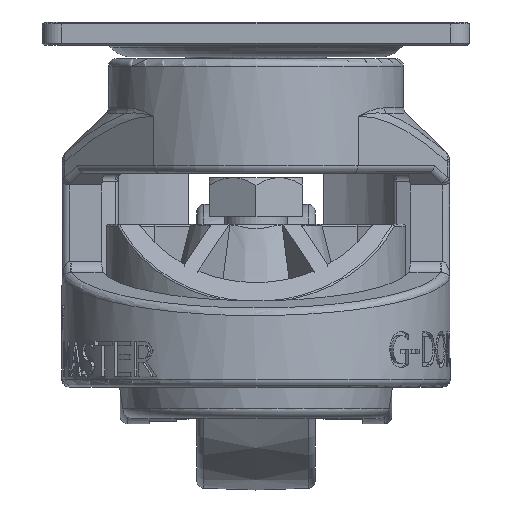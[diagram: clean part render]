
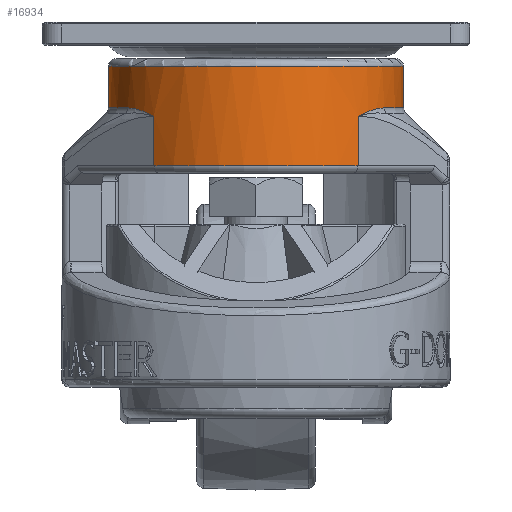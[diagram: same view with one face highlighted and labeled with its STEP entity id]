
A CAD part, left-side view. The second image highlights one B-rep face of the part: STEP entity #16934.
In plain terms, the highlighted cylindrical face has radius 38 mm (diameter 76 mm), a full revolution.
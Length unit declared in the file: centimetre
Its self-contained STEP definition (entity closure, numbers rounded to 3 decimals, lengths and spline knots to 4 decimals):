
#663=B_SPLINE_CURVE_WITH_KNOTS('',3,(#38370,#38371,#38372,#38373,#38374,
#38375,#38376,#38377,#38378,#38379,#38380,#38381,#38382,#38383,#38384,#38385),
 .UNSPECIFIED.,.F.,.F.,(4,2,2,2,2,2,2,4),(0.,0.7106,
1.3134,1.6902,1.9317,2.4146,3.1873,
3.8633),.UNSPECIFIED.);
#664=B_SPLINE_CURVE_WITH_KNOTS('',3,(#38555,#38556,#38557,#38558,#38559,
#38560,#38561,#38562,#38563,#38564,#38565,#38566,#38567,#38568,#38569,#38570),
 .UNSPECIFIED.,.F.,.F.,(4,2,2,2,2,2,2,4),(-3.8633,-3.1873,
-2.4146,-1.9317,-1.6902,-1.3134,
-0.7106,0.),.UNSPECIFIED.);
#814=B_SPLINE_CURVE_WITH_KNOTS('',3,(#56630,#56631,#56632,#56633,#56634,
#56635,#56636,#56637,#56638,#56639,#56640,#56641,#56642,#56643,#56644,#56645),
 .UNSPECIFIED.,.F.,.F.,(4,2,2,2,2,2,2,4),(-11.871,-9.3932,
-7.4151,-5.9298,-5.1871,-3.9989,
-2.0977,0.0115),.UNSPECIFIED.);
#815=B_SPLINE_CURVE_WITH_KNOTS('',3,(#56648,#56649,#56650,#56651,#56652,
#56653,#56654,#56655,#56656,#56657,#56658,#56659,#56660,#56661,#56662,#56663),
 .UNSPECIFIED.,.F.,.F.,(4,2,2,2,2,2,2,4),(-11.8825,-9.8031,
-7.4266,-5.9413,-5.1986,-4.0104,
-2.1092,0.),.UNSPECIFIED.);
#1179=FACE_BOUND('',#3603,.T.);
#1388=CYLINDRICAL_SURFACE('',#18320,3.8);
#2493=FACE_OUTER_BOUND('',#3602,.T.);
#3602=EDGE_LOOP('',(#13549));
#3603=EDGE_LOOP('',(#13550,#13551,#13552,#13553,#13554,#13555,#13556,#13557,
#13558,#13559));
#4420=CIRCLE('',#17998,3.8);
#4444=CIRCLE('',#18044,3.8);
#4553=CIRCLE('',#18319,3.8);
#4554=CIRCLE('',#18321,3.8);
#4555=CIRCLE('',#18322,3.8);
#5470=LINE('',#56628,#6411);
#5471=LINE('',#56664,#6412);
#6411=VECTOR('',#21647,1.272);
#6412=VECTOR('',#21650,1.2719);
#7405=VERTEX_POINT('',#38367);
#7406=VERTEX_POINT('',#38369);
#7407=VERTEX_POINT('',#38390);
#7408=VERTEX_POINT('',#38553);
#7430=VERTEX_POINT('',#40307);
#7432=VERTEX_POINT('',#40313);
#7721=VERTEX_POINT('',#56621);
#7722=VERTEX_POINT('',#56625);
#7723=VERTEX_POINT('',#56627);
#7724=VERTEX_POINT('',#56629);
#7725=VERTEX_POINT('',#56647);
#9203=EDGE_CURVE('',#7405,#7406,#663,.T.);
#9206=EDGE_CURVE('',#7406,#7407,#4420,.T.);
#9209=EDGE_CURVE('',#7407,#7408,#664,.T.);
#9255=EDGE_CURVE('',#7430,#7432,#4444,.T.);
#9843=EDGE_CURVE('',#7721,#7405,#4553,.T.);
#9844=EDGE_CURVE('',#7722,#7722,#4554,.T.);
#9845=EDGE_CURVE('',#7723,#7430,#5470,.T.);
#9846=EDGE_CURVE('',#7724,#7723,#814,.T.);
#9847=EDGE_CURVE('',#7408,#7724,#4555,.T.);
#9848=EDGE_CURVE('',#7725,#7721,#815,.T.);
#9849=EDGE_CURVE('',#7725,#7432,#5471,.T.);
#13549=ORIENTED_EDGE('',*,*,#9844,.F.);
#13550=ORIENTED_EDGE('',*,*,#9255,.F.);
#13551=ORIENTED_EDGE('',*,*,#9845,.F.);
#13552=ORIENTED_EDGE('',*,*,#9846,.F.);
#13553=ORIENTED_EDGE('',*,*,#9847,.F.);
#13554=ORIENTED_EDGE('',*,*,#9209,.F.);
#13555=ORIENTED_EDGE('',*,*,#9206,.F.);
#13556=ORIENTED_EDGE('',*,*,#9203,.F.);
#13557=ORIENTED_EDGE('',*,*,#9843,.F.);
#13558=ORIENTED_EDGE('',*,*,#9848,.F.);
#13559=ORIENTED_EDGE('',*,*,#9849,.T.);
#16934=ADVANCED_FACE('',(#2493,#1179),#1388,.T.);
#17998=AXIS2_PLACEMENT_3D('',#38391,#20660,#20661);
#18044=AXIS2_PLACEMENT_3D('',#40314,#20754,#20755);
#18319=AXIS2_PLACEMENT_3D('',#56623,#21641,#21642);
#18320=AXIS2_PLACEMENT_3D('',#56624,#21643,#21644);
#18321=AXIS2_PLACEMENT_3D('',#56626,#21645,#21646);
#18322=AXIS2_PLACEMENT_3D('',#56646,#21648,#21649);
#20660=DIRECTION('center_axis',(0.,0.,-1.));
#20661=DIRECTION('ref_axis',(1.,0.,0.));
#20754=DIRECTION('center_axis',(0.,0.,-1.));
#20755=DIRECTION('ref_axis',(-1.,0.,0.));
#21641=DIRECTION('center_axis',(0.,0.,-1.));
#21642=DIRECTION('ref_axis',(0.054,0.999,0.));
#21643=DIRECTION('center_axis',(0.,0.,1.));
#21644=DIRECTION('ref_axis',(1.,0.,0.));
#21645=DIRECTION('center_axis',(0.,0.,1.));
#21646=DIRECTION('ref_axis',(-1.,0.,0.));
#21647=DIRECTION('',(0.,0.,-1.));
#21648=DIRECTION('center_axis',(0.,0.,-1.));
#21649=DIRECTION('ref_axis',(0.054,-0.999,0.));
#21650=DIRECTION('',(0.,0.,-1.));
#38367=CARTESIAN_POINT('',(0.5541,3.4637,3.8129));
#38369=CARTESIAN_POINT('',(0.8106,3.2309,3.9238));
#38370=CARTESIAN_POINT('Ctrl Pts',(0.5541,3.4637,3.8129));
#38371=CARTESIAN_POINT('Ctrl Pts',(0.5676,3.4525,3.8277));
#38372=CARTESIAN_POINT('Ctrl Pts',(0.5822,3.4403,3.8408));
#38373=CARTESIAN_POINT('Ctrl Pts',(0.6101,3.4164,3.862));
#38374=CARTESIAN_POINT('Ctrl Pts',(0.6234,3.405,3.8706));
#38375=CARTESIAN_POINT('Ctrl Pts',(0.6452,3.3858,3.8829));
#38376=CARTESIAN_POINT('Ctrl Pts',(0.6537,3.3783,3.8872));
#38377=CARTESIAN_POINT('Ctrl Pts',(0.6676,3.3659,3.8937));
#38378=CARTESIAN_POINT('Ctrl Pts',(0.673,3.361,3.896));
#38379=CARTESIAN_POINT('Ctrl Pts',(0.6894,3.3462,3.9026));
#38380=CARTESIAN_POINT('Ctrl Pts',(0.7004,3.3361,3.9064));
#38381=CARTESIAN_POINT('Ctrl Pts',(0.7292,3.3096,3.9148));
#38382=CARTESIAN_POINT('Ctrl Pts',(0.7469,3.2928,3.9185));
#38383=CARTESIAN_POINT('Ctrl Pts',(0.78,3.261,3.9228));
#38384=CARTESIAN_POINT('Ctrl Pts',(0.7954,3.246,3.9238));
#38385=CARTESIAN_POINT('Ctrl Pts',(0.8106,3.2309,3.9238));
#38390=CARTESIAN_POINT('',(0.8106,-2.1575,3.9238));
#38391=CARTESIAN_POINT('Origin',(-1.8692,0.5367,3.9238));
#38553=CARTESIAN_POINT('',(0.5541,-2.3904,3.8129));
#38555=CARTESIAN_POINT('Ctrl Pts',(0.8106,-2.1575,
3.9238));
#38556=CARTESIAN_POINT('Ctrl Pts',(0.7954,-2.1726,
3.9238));
#38557=CARTESIAN_POINT('Ctrl Pts',(0.78,-2.1877,
3.9228));
#38558=CARTESIAN_POINT('Ctrl Pts',(0.7469,-2.2195,
3.9185));
#38559=CARTESIAN_POINT('Ctrl Pts',(0.7292,-2.2362,
3.9148));
#38560=CARTESIAN_POINT('Ctrl Pts',(0.7004,-2.2628,
3.9064));
#38561=CARTESIAN_POINT('Ctrl Pts',(0.6894,-2.2729,
3.9026));
#38562=CARTESIAN_POINT('Ctrl Pts',(0.673,-2.2877,
3.896));
#38563=CARTESIAN_POINT('Ctrl Pts',(0.6676,-2.2926,
3.8937));
#38564=CARTESIAN_POINT('Ctrl Pts',(0.6537,-2.305,
3.8872));
#38565=CARTESIAN_POINT('Ctrl Pts',(0.6452,-2.3125,
3.8829));
#38566=CARTESIAN_POINT('Ctrl Pts',(0.6234,-2.3317,
3.8706));
#38567=CARTESIAN_POINT('Ctrl Pts',(0.6101,-2.3431,
3.862));
#38568=CARTESIAN_POINT('Ctrl Pts',(0.5822,-2.3669,
3.8408));
#38569=CARTESIAN_POINT('Ctrl Pts',(0.5676,-2.3791,
3.8277));
#38570=CARTESIAN_POINT('Ctrl Pts',(0.5541,-2.3904,3.8129));
#40307=CARTESIAN_POINT('',(-4.6154,-2.0899,2.3276));
#40313=CARTESIAN_POINT('',(-4.6154,3.1632,2.3276));
#40314=CARTESIAN_POINT('Origin',(-1.8692,0.5367,2.3276));
#56621=CARTESIAN_POINT('',(-3.745,3.8414,3.8129));
#56623=CARTESIAN_POINT('Origin',(-1.8692,0.5367,3.8129));
#56624=CARTESIAN_POINT('Origin',(-1.8692,0.5367,4.4026));
#56625=CARTESIAN_POINT('',(-5.6692,0.5367,4.8776));
#56626=CARTESIAN_POINT('Origin',(-1.8692,0.5367,4.8776));
#56627=CARTESIAN_POINT('',(-4.6154,-2.0899,3.5996));
#56628=CARTESIAN_POINT('',(-4.6154,-2.0899,3.5996));
#56629=CARTESIAN_POINT('',(-3.745,-2.7681,3.8129));
#56630=CARTESIAN_POINT('Ctrl Pts',(-3.745,-2.7681,
3.8129));
#56631=CARTESIAN_POINT('Ctrl Pts',(-3.8132,-2.7294,
3.8129));
#56632=CARTESIAN_POINT('Ctrl Pts',(-3.8804,-2.6884,
3.8094));
#56633=CARTESIAN_POINT('Ctrl Pts',(-3.9986,-2.6113,3.7972));
#56634=CARTESIAN_POINT('Ctrl Pts',(-4.05,-2.5759,3.7897));
#56635=CARTESIAN_POINT('Ctrl Pts',(-4.1381,-2.512,
3.7732));
#56636=CARTESIAN_POINT('Ctrl Pts',(-4.1751,-2.4841,
3.7651));
#56637=CARTESIAN_POINT('Ctrl Pts',(-4.2297,-2.4413,3.7513));
#56638=CARTESIAN_POINT('Ctrl Pts',(-4.2478,-2.4269,
3.7464));
#56639=CARTESIAN_POINT('Ctrl Pts',(-4.2943,-2.3891,3.7332));
#56640=CARTESIAN_POINT('Ctrl Pts',(-4.3225,-2.3655,
3.7243));
#56641=CARTESIAN_POINT('Ctrl Pts',(-4.3947,-2.3033,
3.6998));
#56642=CARTESIAN_POINT('Ctrl Pts',(-4.438,-2.2642,
3.6831));
#56643=CARTESIAN_POINT('Ctrl Pts',(-4.5267,-2.1803,
3.6449));
#56644=CARTESIAN_POINT('Ctrl Pts',(-4.5718,-2.1354,
3.623));
#56645=CARTESIAN_POINT('Ctrl Pts',(-4.6154,-2.0899,3.5996));
#56646=CARTESIAN_POINT('Origin',(-1.8692,0.5367,3.8129));
#56647=CARTESIAN_POINT('',(-4.6154,3.1632,3.5995));
#56648=CARTESIAN_POINT('Ctrl Pts',(-4.6154,3.1632,3.5996));
#56649=CARTESIAN_POINT('Ctrl Pts',(-4.5725,3.2081,3.6227));
#56650=CARTESIAN_POINT('Ctrl Pts',(-4.528,3.2524,3.6443));
#56651=CARTESIAN_POINT('Ctrl Pts',(-4.4295,3.3456,3.6869));
#56652=CARTESIAN_POINT('Ctrl Pts',(-4.3751,3.3943,3.7073));
#56653=CARTESIAN_POINT('Ctrl Pts',(-4.2838,3.4713,3.7365));
#56654=CARTESIAN_POINT('Ctrl Pts',(-4.248,3.5004,3.7467));
#56655=CARTESIAN_POINT('Ctrl Pts',(-4.1933,3.5432,3.7605));
#56656=CARTESIAN_POINT('Ctrl Pts',(-4.175,3.5573,3.7648));
#56657=CARTESIAN_POINT('Ctrl Pts',(-4.1268,3.5936,3.7754));
#56658=CARTESIAN_POINT('Ctrl Pts',(-4.0967,3.6156,3.7812));
#56659=CARTESIAN_POINT('Ctrl Pts',(-4.0173,3.6718,3.7946));
#56660=CARTESIAN_POINT('Ctrl Pts',(-3.9674,3.7054,3.801));
#56661=CARTESIAN_POINT('Ctrl Pts',(-3.8604,3.7739,3.8104));
#56662=CARTESIAN_POINT('Ctrl Pts',(-3.8031,3.8085,3.8129));
#56663=CARTESIAN_POINT('Ctrl Pts',(-3.745,3.8414,3.8129));
#56664=CARTESIAN_POINT('',(-4.6154,3.1632,3.5995));
